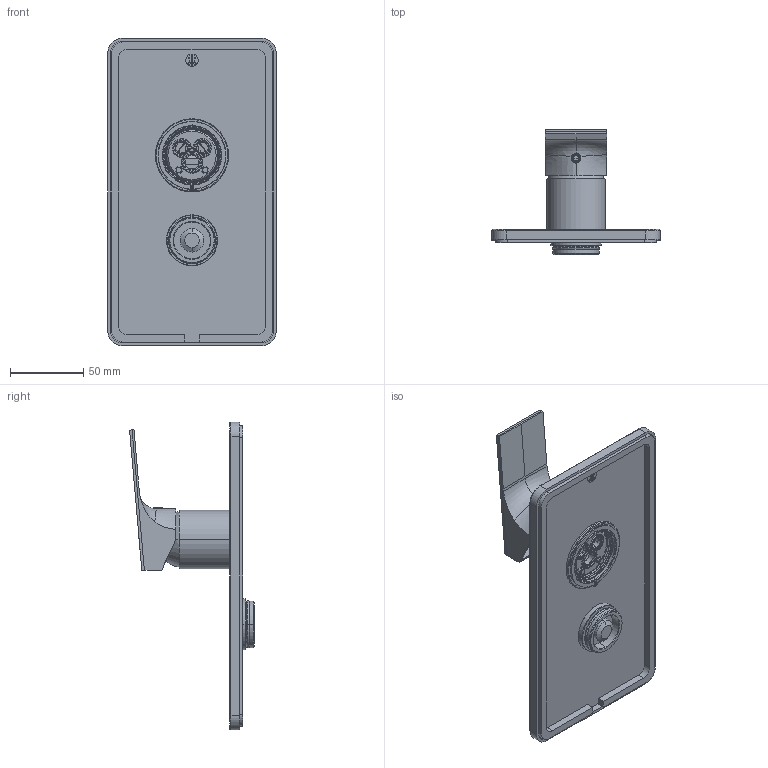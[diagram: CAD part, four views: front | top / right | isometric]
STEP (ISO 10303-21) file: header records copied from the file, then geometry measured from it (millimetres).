
FILE_DESCRIPTION((''),'2;1');
FILE_NAME('87521A_ASM','2024-12-19T13:58:35',('volponeff'),(''),'CREO PARAMETRIC BY PTC INC, 2022014','CREO PARAMETRIC BY PTC INC, 2022014','');
FILE_SCHEMA(('CONFIG_CONTROL_DESIGN'));
Length unit declared in the file: millimetre
Products named in the file (17): D507000563; D451D50353; A503E90162; D496B60233; P507000564_ASM; D465C90185; A302D40038; D460000139; D494C90058; D500001404_MAR; D532C90155; A503B60088; P532C90156_ASM; D511000162; A536A80109; P765XX0570_ASM; 87521A_ASM
Assembly tree (16 placements, depth 3):
  87521A_ASM
    P507000564_ASM
      D507000563
      D451D50353
      A503E90162
      D496B60233
    D465C90185
    A302D40038
    D460000139
    D494C90058
    D500001404_MAR
    P532C90156_ASM
      D532C90155
      A503B60088
    P765XX0570_ASM
      D511000162
      A536A80109
Bounding box: 115 x 85.25 x 210 mm (x, y, z)
Volume: 144081.4 mm3; surface area: 126917.7 mm2
Topology: 14 solids, 23 shells, 1141 faces, 3212 edges, 2134 vertices
Faces by surface type: plane 418, cylinder 412, torus 101, cone 76, extrusion 68, bspline 52, sphere 14
Entity records: 52844 total; most frequent: CARTESIAN_POINT 23015, ORIENTED_EDGE 6373, DIRECTION 5994, EDGE_CURVE 3206, AXIS2_PLACEMENT_3D 2195, VERTEX_POINT 2134, VECTOR 1604, LINE 1536
